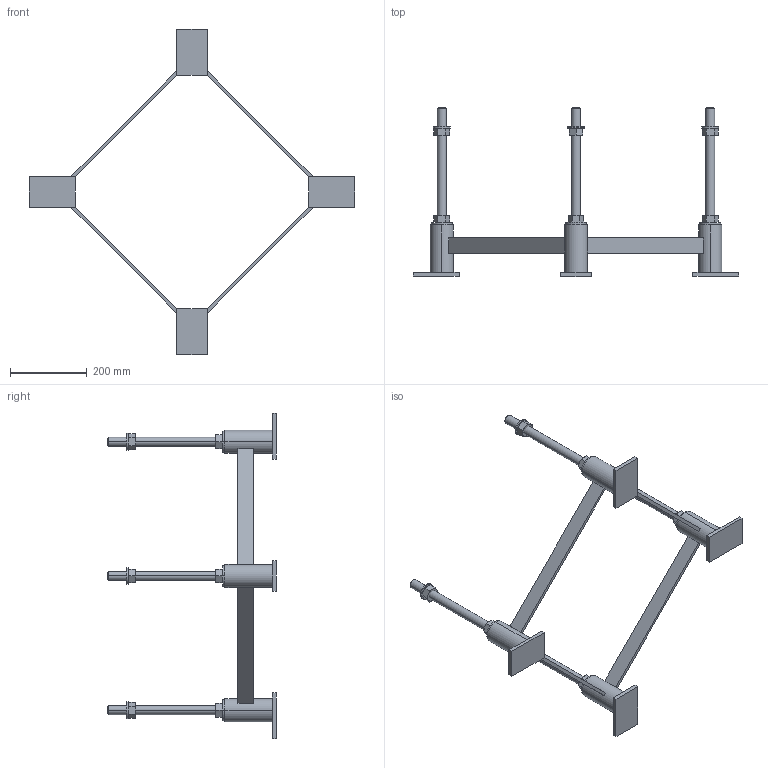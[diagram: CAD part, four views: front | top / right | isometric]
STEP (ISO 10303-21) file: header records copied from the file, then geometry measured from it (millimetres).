
FILE_DESCRIPTION((''),'2;1');
FILE_NAME('S001201_SW0001','2024-03-19T',('Lyritlocal'),(''),'PRO/ENGINEER BY PARAMETRIC TECHNOLOGY CORPORATION, 2016360','PRO/ENGINEER BY PARAMETRIC TECHNOLOGY CORPORATION, 2016360','');
FILE_SCHEMA(('CONFIG_CONTROL_DESIGN'));
Length unit declared in the file: millimetre
Products named in the file (1): S001201_SW0001
Bounding box: 850 x 440 x 850 mm (x, y, z)
Surface area: 524990.7 mm2 (no closed solid volume)
Topology: 0 solids, 32 shells, 215 faces, 516 edges, 328 vertices
Faces by surface type: plane 108, cone 75, cylinder 32
Entity records: 6823 total; most frequent: CARTESIAN_POINT 2211, DIRECTION 910, ORIENTED_EDGE 881, EDGE_CURVE 516, AXIS2_PLACEMENT_3D 371, VERTEX_POINT 328, EDGE_LOOP 215, FACE_OUTER_BOUND 215
